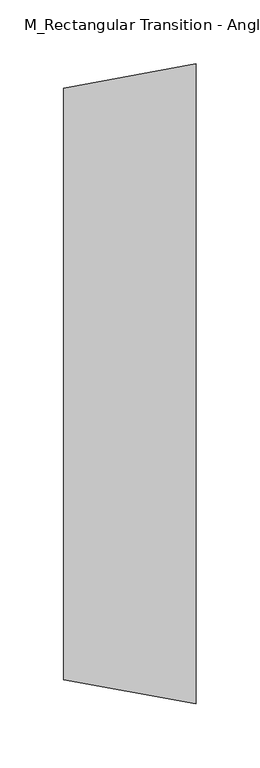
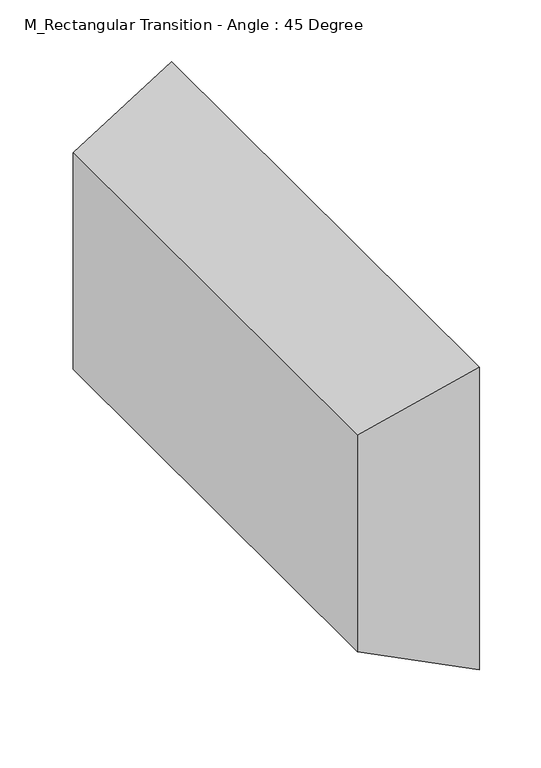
"""IFC4 building model written with IfcOpenShell, lengths in millimetres: duct fitting geometry, M_Rectangular Transition - Angle : 45 Degree."""

from ifc_helpers import new_model, si_unit, origin, place, context, project, spatial, faceted_brep, source, transform, mapped, element, save


def m_rectangular_transition_angle_45_degree_f7c2916c(model_context):
    return source(origin(), model_context, "Body", "Brep", [
        faceted_brep([(103.4490511, -250.0, 150.0), (103.4490511, -250.0, -150.0), (103.4490511, 250.0, -150.0), (103.4490511, 250.0, 150.0), (0.0, -230.9375, 107.15), (0.0, 230.9375, 107.15), (0.0, 230.9375, -107.15), (0.0, -230.9375, -107.15)], [[[0, 1, 2, 3]], [[4, 5, 6, 7]], [[4, 7, 1, 0]], [[7, 6, 2, 1]], [[6, 5, 3, 2]], [[5, 4, 0, 3]]]),
    ])


if __name__ == "__main__":
    model = new_model("IFC4")
    model_context = context("Model", 3, world=origin())
    ifc_project = project(units=[si_unit("LENGTHUNIT", "METRE", prefix="MILLI")], contexts=[model_context])
    site = spatial("IfcSite", under=ifc_project)
    building = spatial("IfcBuilding", under=site)
    placement = place(None, origin())
    m_rectangular_transition_angle_45_degree_shape = m_rectangular_transition_angle_45_degree_f7c2916c(model_context)
    element("IfcDuctFitting", 1, ObjectType="M_Rectangular Transition - Angle : 45 Degree", at=placement, inside=building, context=model_context, shape_type="MappedRepresentation", body=[
        mapped(m_rectangular_transition_angle_45_degree_shape, transform((0.0, 0.0, 0.0), x_axis=(1.0, 0.0, 0.0), y_axis=(0.0, 1.0, 0.0), z_axis=(0.0, 0.0, 1.0))),
    ])
    save(model, "model.ifc")
